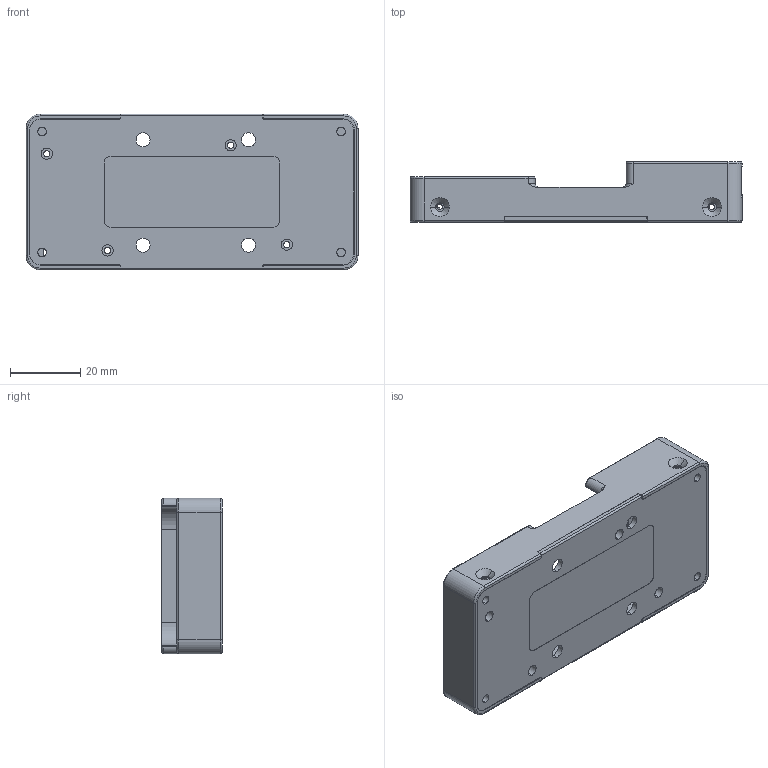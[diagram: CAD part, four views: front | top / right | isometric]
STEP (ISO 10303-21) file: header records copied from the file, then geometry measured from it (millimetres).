
FILE_DESCRIPTION (( 'STEP AP214' ), '1' );
FILE_NAME ('Carrier Board.STEP', '2020-11-13T01:55:59', ( 'User' ), ( 'User' ), 'SwSTEP 2.0', 'SolidWorks 2018', '' );
FILE_SCHEMA (( 'AUTOMOTIVE_DESIGN' ));
Length unit declared in the file: millimetre
Products named in the file (3): Carrier Board; CB狟裔; CB-E上盖装配孔+圆孔位置
Assembly tree (2 placements, depth 2):
  Carrier Board
    CB-E上盖装配孔+圆孔位置
    CB狟裔
Bounding box: 94.46 x 17.25 x 44.29 mm (x, y, z)
Volume: 14480.4 mm3; surface area: 20888.9 mm2
Topology: 2 solids, 2 shells, 558 faces, 1520 edges, 981 vertices
Faces by surface type: plane 359, cylinder 171, torus 16, cone 12
Entity records: 17755 total; most frequent: CARTESIAN_POINT 3262, ORIENTED_EDGE 3040, DIRECTION 2947, EDGE_CURVE 1520, VECTOR 1105, LINE 1105, VERTEX_POINT 981, AXIS2_PLACEMENT_3D 921
